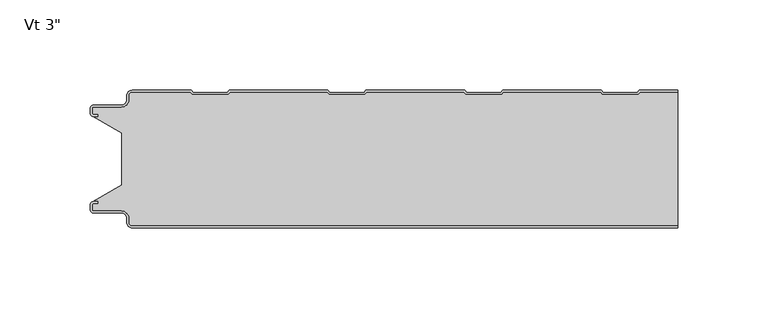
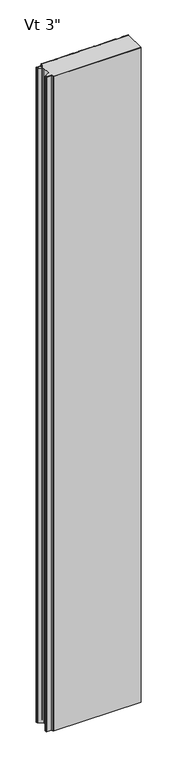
"""IFC4 building model written with IfcOpenShell, lengths in millimetres: plate geometry."""

from ifc_helpers import new_model, si_unit, frame, origin, place, context, project, spatial, polyline, circle_curve, source, transform, mapped, element, save
from ifc_brep_helpers import plane_surface, cylinder_surface, revolved_surface, advanced_brep


def plate_3c036621(model_context):
    return source(origin(), model_context, "Body", "AdvancedBrep", [
        advanced_brep(
        [(133.0522163, -1.0, 2400.0), (153.7374998, -1.0, 2400.0), (153.7374998, 0.0, 2400.0), (132.6097769, 0.0, 2400.0), (131.5372521, -1.1911595, 2400.0), (112.6391361, -1.1911595, 2400.0), (111.5666112, 0.0, 2400.0), (56.9871567, 0.0, 2400.0), (55.9146318, -1.1911595, 2400.0), (37.0165158, -1.1911595, 2400.0), (35.943991, 0.0, 2400.0), (-18.6354636, 0.0, 2400.0), (-19.7079884, -1.1911595, 2400.0), (-38.6061045, -1.1911595, 2400.0), (-39.6786293, 0.0, 2400.0), (-94.2580838, 0.0, 2400.0), (-95.3306087, -1.1911595, 2400.0), (-114.2287247, -1.1911595, 2400.0), (-115.3012496, 0.0, 2400.0), (-147.9102806, 0.0, 2400.0), (-150.8875472, -2.9772904, 2400.0), (-150.8875472, -5.2691742, 2400.0), (-153.8648158, -8.2464427, 2400.0), (-169.4612418, -8.2464427, 2400.0), (-171.0491183, -9.8343193, 2400.0), (-171.0491183, -12.905868, 2400.0), (-169.4612418, -14.4937445, 2400.0), (-167.1062063, -14.4937445, 2400.0), (-167.1062063, -13.4937445, 2400.0), (-169.4612418, -13.4937445, 2400.0), (-170.0491183, -12.905868, 2400.0), (-170.0491183, -9.8343193, 2400.0), (-169.4612418, -9.2464427, 2400.0), (-153.8648158, -9.2464427, 2400.0), (-149.8875472, -5.2691742, 2400.0), (-149.8875472, -2.9772904, 2400.0), (-147.9102799, -1.0000218, 2400.0), (-115.7436889, -1.0, 2400.0), (-114.671164, -2.1911595, 2400.0), (-94.8881694, -2.1911595, 2400.0), (-93.8156445, -1.0, 2400.0), (-40.1210686, -1.0, 2400.0), (-39.0485438, -2.1911595, 2400.0), (-19.2655491, -2.1911595, 2400.0), (-18.1930243, -1.0, 2400.0), (35.5015516, -1.0, 2400.0), (36.5740765, -2.1911595, 2400.0), (56.3570712, -2.1911595, 2400.0), (57.429596, -1.0, 2400.0), (111.1241719, -1.0, 2400.0), (112.1966967, -2.1911595, 2400.0), (131.9796914, -2.1911595, 2400.0), (132.6097769, 0.0, 0.0), (153.7374998, 0.0, 0.0), (153.7374998, -1.0, 0.0), (133.0522163, -1.0, 0.0), (131.9796914, -2.1911595, 0.0), (112.1966967, -2.1911595, 0.0), (111.1241719, -1.0, 0.0), (57.429596, -1.0, 0.0), (56.3570712, -2.1911595, 0.0), (36.5740765, -2.1911595, 0.0), (35.5015516, -1.0, 0.0), (-18.1930243, -1.0, 0.0), (-19.2655491, -2.1911595, 0.0), (-39.0485438, -2.1911595, 0.0), (-40.1210686, -1.0, 0.0), (-93.8156445, -1.0, 0.0), (-94.8881694, -2.1911595, 0.0), (-114.671164, -2.1911595, 0.0), (-115.7436889, -1.0, 0.0), (-147.9102799, -1.0, 0.0), (-149.8875472, -2.9772904, 0.0), (-149.8875472, -5.2691742, 0.0), (-153.8648158, -9.2464427, 0.0), (-169.4612418, -9.2464427, 0.0), (-170.0491183, -9.8343193, 0.0), (-170.0491183, -12.905868, 0.0), (-169.4612418, -13.4937445, 0.0), (-167.1062063, -13.4937445, 0.0), (-167.1062063, -14.4937445, 0.0), (-169.4612418, -14.4937445, 0.0), (-171.0491183, -12.905868, 0.0), (-171.0491183, -9.8343193, 0.0), (-169.4612418, -8.2464427, 0.0), (-153.8648158, -8.2464427, 0.0), (-150.8875472, -5.2691742, 0.0), (-150.8875472, -2.9772904, 0.0), (-147.9102806, -2.18e-05, 0.0), (-115.3012496, 0.0, 0.0), (-114.2287247, -1.1911595, 0.0), (-95.3306087, -1.1911595, 0.0), (-94.2580838, 0.0, 0.0), (-39.6786293, 0.0, 0.0), (-38.6061045, -1.1911595, 0.0), (-19.7079884, -1.1911595, 0.0), (-18.6354636, 0.0, 0.0), (35.943991, 0.0, 0.0), (37.0165158, -1.1911595, 0.0), (55.9146318, -1.1911595, 0.0), (56.9871567, 0.0, 0.0), (111.5666112, 0.0, 0.0), (112.6391361, -1.1911595, 0.0), (131.5372521, -1.1911595, 0.0)],
        [
            (0, 1),
            (1, 2),
            (2, 3),
            (3, 4),
            (4, 5),
            (5, 6),
            (6, 7),
            (7, 8),
            (8, 9),
            (9, 10),
            (10, 11),
            (11, 12),
            (12, 13),
            (13, 14),
            (14, 15),
            (15, 16),
            (16, 17),
            (17, 18),
            (18, 19),
            (19, 20, circle_curve(frame((-147.9102787, -2.9772904, 2400.0), z_axis=(0.0, 0.0, 1.0), x_axis=(0.0, 1.0, 0.0)), 2.9772685)),
            (20, 21),
            (21, 22, circle_curve(frame((-153.8648158, -5.2691742, 2400.0), z_axis=(0.0, 0.0, -1.0), x_axis=(0.0, 1.0, 0.0)), 2.9772685)),
            (22, 23),
            (23, 24, circle_curve(frame((-169.4612418, -9.8343193, 2400.0), z_axis=(0.0, 0.0, 1.0), x_axis=(0.0, 1.0, 0.0)), 1.5878765)),
            (24, 25),
            (25, 26, circle_curve(frame((-169.4612418, -12.905868, 2400.0), z_axis=(0.0, 0.0, 1.0), x_axis=(0.0, 1.0, 0.0)), 1.5878765)),
            (26, 27),
            (27, 28),
            (28, 29),
            (29, 30, circle_curve(frame((-169.4612418, -12.905868, 2400.0), z_axis=(0.0, 0.0, -1.0), x_axis=(0.0, 1.0, 0.0)), 0.5878765)),
            (30, 31),
            (31, 32, circle_curve(frame((-169.4612418, -9.8343193, 2400.0), z_axis=(0.0, 0.0, -1.0), x_axis=(0.0, 1.0, 0.0)), 0.5878765)),
            (32, 33),
            (33, 34, circle_curve(frame((-153.8648158, -5.2691742, 2400.0), z_axis=(0.0, 0.0, 1.0), x_axis=(0.0, 1.0, 0.0)), 3.9772685)),
            (34, 35),
            (35, 36, circle_curve(frame((-147.9102787, -2.9772904, 2400.0), z_axis=(0.0, 0.0, -1.0), x_axis=(0.0, 1.0, 0.0)), 1.9772685)),
            (36, 37),
            (37, 38),
            (38, 39),
            (39, 40),
            (40, 41),
            (41, 42),
            (42, 43),
            (43, 44),
            (44, 45),
            (45, 46),
            (46, 47),
            (47, 48),
            (48, 49),
            (49, 50),
            (50, 51),
            (51, 0),
            (52, 53),
            (53, 54),
            (54, 55),
            (55, 56),
            (56, 57),
            (57, 58),
            (58, 59),
            (59, 60),
            (60, 61),
            (61, 62),
            (62, 63),
            (63, 64),
            (64, 65),
            (65, 66),
            (66, 67),
            (67, 68),
            (68, 69),
            (69, 70),
            (70, 71),
            (71, 72, circle_curve(frame((-147.9102787, -2.9772904, 0.0), z_axis=(0.0, 0.0, 1.0), x_axis=(0.0, 1.0, 0.0)), 1.9772685)),
            (72, 73),
            (73, 74, circle_curve(frame((-153.8648158, -5.2691742, 0.0), z_axis=(0.0, 0.0, -1.0), x_axis=(0.0, 1.0, 0.0)), 3.9772685)),
            (74, 75),
            (75, 76, circle_curve(frame((-169.4612418, -9.8343193, 0.0), z_axis=(0.0, 0.0, 1.0), x_axis=(0.0, 1.0, 0.0)), 0.5878765)),
            (76, 77),
            (77, 78, circle_curve(frame((-169.4612418, -12.905868, 0.0), z_axis=(0.0, 0.0, 1.0), x_axis=(0.0, 1.0, 0.0)), 0.5878765)),
            (78, 79),
            (79, 80),
            (80, 81),
            (81, 82, circle_curve(frame((-169.4612418, -12.905868, 0.0), z_axis=(0.0, 0.0, -1.0), x_axis=(0.0, 1.0, 0.0)), 1.5878765)),
            (82, 83),
            (83, 84, circle_curve(frame((-169.4612418, -9.8343193, 0.0), z_axis=(0.0, 0.0, -1.0), x_axis=(0.0, 1.0, 0.0)), 1.5878765)),
            (84, 85),
            (85, 86, circle_curve(frame((-153.8648158, -5.2691742, 0.0), z_axis=(0.0, 0.0, 1.0), x_axis=(0.0, 1.0, 0.0)), 2.9772685)),
            (86, 87),
            (87, 88, circle_curve(frame((-147.9102787, -2.9772904, 0.0), z_axis=(0.0, 0.0, -1.0), x_axis=(0.0, 1.0, 0.0)), 2.9772685)),
            (88, 89),
            (89, 90),
            (90, 91),
            (91, 92),
            (92, 93),
            (93, 94),
            (94, 95),
            (95, 96),
            (96, 97),
            (97, 98),
            (98, 99),
            (99, 100),
            (100, 101),
            (101, 102),
            (102, 103),
            (103, 52),
            (54, 1),
            (0, 55),
            (51, 56),
            (50, 57),
            (49, 58),
            (48, 59),
            (47, 60),
            (46, 61),
            (45, 62),
            (44, 63),
            (43, 64),
            (42, 65),
            (41, 66),
            (40, 67),
            (39, 68),
            (38, 69),
            (37, 70),
            (36, 71),
            (35, 72),
            (34, 73),
            (33, 74),
            (32, 75),
            (31, 76),
            (30, 77),
            (29, 78),
            (28, 79),
            (27, 80),
            (26, 81),
            (25, 82),
            (24, 83),
            (23, 84),
            (22, 85),
            (21, 86),
            (20, 87),
            (19, 88),
            (18, 89),
            (17, 90),
            (16, 91),
            (15, 92),
            (14, 93),
            (13, 94),
            (12, 95),
            (11, 96),
            (10, 97),
            (9, 98),
            (8, 99),
            (7, 100),
            (6, 101),
            (5, 102),
            (4, 103),
            (3, 52),
            (2, 53),
        ],
        [
            plane_surface(frame((422.5250002, 0.0, 2400.0), z_axis=(0.0, 0.0, 1.0), x_axis=(0.0, 1.0, 0.0))),
            plane_surface(frame((422.5250002, 0.0, 0.0), z_axis=(0.0, 0.0, -1.0), x_axis=(0.0, 1.0, 0.0))),
            plane_surface(frame((186.7467922, -1.0, 2400.0), z_axis=(0.0, -1.0, 0.0), x_axis=(0.0, 0.0, -1.0))),
            plane_surface(frame((133.0522163, -1.0, 2400.0), z_axis=(0.7431448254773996, -0.6691306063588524, 0.0), x_axis=(0.0, 0.0, -1.0))),
            plane_surface(frame((131.9796914, -2.1911595, 2400.0), z_axis=(0.0, -1.0, 0.0), x_axis=(0.0, 0.0, -1.0))),
            plane_surface(frame((112.1966967, -2.1911595, 2400.0), z_axis=(-0.7431448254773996, -0.6691306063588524, 0.0), x_axis=(0.0, 0.0, -1.0))),
            plane_surface(frame((111.1241719, -1.0, 2400.0), z_axis=(0.0, -1.0, 0.0), x_axis=(0.0, 0.0, -1.0))),
            plane_surface(frame((57.429596, -1.0, 2400.0), z_axis=(0.7431448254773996, -0.6691306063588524, 0.0), x_axis=(0.0, 0.0, -1.0))),
            plane_surface(frame((56.3570712, -2.1911595, 2400.0), z_axis=(0.0, -1.0, 0.0), x_axis=(0.0, 0.0, -1.0))),
            plane_surface(frame((36.5740765, -2.1911595, 2400.0), z_axis=(-0.7431448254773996, -0.6691306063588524, 0.0), x_axis=(0.0, 0.0, -1.0))),
            plane_surface(frame((35.5015516, -1.0, 2400.0), z_axis=(0.0, -1.0, 0.0), x_axis=(0.0, 0.0, -1.0))),
            plane_surface(frame((-18.1930243, -1.0, 2400.0), z_axis=(0.7431448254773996, -0.6691306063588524, 0.0), x_axis=(0.0, 0.0, -1.0))),
            plane_surface(frame((-19.2655491, -2.1911595, 2400.0), z_axis=(0.0, -1.0, 0.0), x_axis=(0.0, 0.0, -1.0))),
            plane_surface(frame((-39.0485438, -2.1911595, 2400.0), z_axis=(-0.7431448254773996, -0.6691306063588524, 0.0), x_axis=(0.0, 0.0, -1.0))),
            plane_surface(frame((-40.1210686, -1.0, 2400.0), z_axis=(0.0, -1.0, 0.0), x_axis=(0.0, 0.0, -1.0))),
            plane_surface(frame((-93.8156445, -1.0, 2400.0), z_axis=(0.7431448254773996, -0.6691306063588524, 0.0), x_axis=(0.0, 0.0, -1.0))),
            plane_surface(frame((-94.8881694, -2.1911595, 2400.0), z_axis=(0.0, -1.0, 0.0), x_axis=(0.0, 0.0, -1.0))),
            plane_surface(frame((-114.671164, -2.1911595, 2400.0), z_axis=(-0.7431448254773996, -0.6691306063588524, 0.0), x_axis=(0.0, 0.0, -1.0))),
            plane_surface(frame((-115.7436889, -1.0, 2400.0), z_axis=(0.0, -1.0, 0.0), x_axis=(0.0, 0.0, -1.0))),
            revolved_surface(polyline([(-147.9102787, -1.0000218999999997, 0.0), (-147.9102787, -1.0000218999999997, 2400.0)]), (-147.9102787, -2.9772904, 2400.0), (0.0, 0.0, -1.0)),
            plane_surface(frame((-149.8875472, -2.9772904, 2400.0), z_axis=(1.0, 0.0, 0.0), x_axis=(0.0, 0.0, -1.0))),
            cylinder_surface(frame((-153.8648158, -5.2691742, 2400.0), z_axis=(0.0, 0.0, 1.0), x_axis=(0.0, 1.0, 0.0)), 3.9772685),
            plane_surface(frame((-153.8648158, -9.2464427, 2400.0), z_axis=(0.0, -1.0, 0.0), x_axis=(0.0, 0.0, -1.0))),
            revolved_surface(polyline([(-169.4612418, -9.2464428, 0.0), (-169.4612418, -9.2464428, 2400.0)]), (-169.4612418, -9.8343193, 2400.0), (0.0, 0.0, -1.0)),
            plane_surface(frame((-170.0491183, -9.8343193, 2400.0), z_axis=(1.0, 0.0, 0.0), x_axis=(0.0, 0.0, -1.0))),
            revolved_surface(polyline([(-169.4612418, -12.3179915, 0.0), (-169.4612418, -12.3179915, 2400.0)]), (-169.4612418, -12.905868, 2400.0), (0.0, 0.0, -1.0)),
            plane_surface(frame((-169.4612418, -13.4937445, 2400.0), z_axis=(0.0, 1.0, 0.0), x_axis=(0.0, 0.0, -1.0))),
            plane_surface(frame((-167.1062063, -13.4937445, 2400.0), z_axis=(1.0, 0.0, 0.0), x_axis=(0.0, 0.0, -1.0))),
            plane_surface(frame((-167.1062063, -14.4937445, 2400.0), z_axis=(0.0, -1.0, 0.0), x_axis=(0.0, 0.0, -1.0))),
            cylinder_surface(frame((-169.4612418, -12.905868, 2400.0), z_axis=(0.0, 0.0, 1.0), x_axis=(0.0, 1.0, 0.0)), 1.5878765),
            plane_surface(frame((-171.0491183, -12.905868, 2400.0), z_axis=(-1.0, 0.0, 0.0), x_axis=(0.0, 0.0, -1.0))),
            cylinder_surface(frame((-169.4612418, -9.8343193, 2400.0), z_axis=(0.0, 0.0, 1.0), x_axis=(0.0, 1.0, 0.0)), 1.5878765),
            plane_surface(frame((-169.4612418, -8.2464427, 2400.0), z_axis=(0.0, 1.0, 0.0), x_axis=(0.0, 0.0, -1.0))),
            revolved_surface(polyline([(-153.8648158, -2.2919057, 0.0), (-153.8648158, -2.2919057, 2400.0)]), (-153.8648158, -5.2691742, 2400.0), (0.0, 0.0, -1.0)),
            plane_surface(frame((-150.8875472, -5.2691742, 2400.0), z_axis=(-1.0, 0.0, 0.0), x_axis=(0.0, 0.0, -1.0))),
            cylinder_surface(frame((-147.9102787, -2.9772904, 2400.0), z_axis=(0.0, 0.0, 1.0), x_axis=(0.0, 1.0, 0.0)), 2.9772685),
            plane_surface(frame((-147.9102806, 0.0, 2400.0), z_axis=(0.0, 1.0, 0.0), x_axis=(0.0, 0.0, -1.0))),
            plane_surface(frame((-115.3012496, 0.0, 2400.0), z_axis=(0.7431448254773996, 0.6691306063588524, 0.0), x_axis=(0.0, 0.0, -1.0))),
            plane_surface(frame((-114.2287247, -1.1911595, 2400.0), z_axis=(0.0, 1.0, 0.0), x_axis=(0.0, 0.0, -1.0))),
            plane_surface(frame((-95.3306087, -1.1911595, 2400.0), z_axis=(-0.7431448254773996, 0.6691306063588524, 0.0), x_axis=(0.0, 0.0, -1.0))),
            plane_surface(frame((-94.2580838, 0.0, 2400.0), z_axis=(0.0, 1.0, 0.0), x_axis=(0.0, 0.0, -1.0))),
            plane_surface(frame((-39.6786293, 0.0, 2400.0), z_axis=(0.7431448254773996, 0.6691306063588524, 0.0), x_axis=(0.0, 0.0, -1.0))),
            plane_surface(frame((-38.6061045, -1.1911595, 2400.0), z_axis=(0.0, 1.0, 0.0), x_axis=(0.0, 0.0, -1.0))),
            plane_surface(frame((-19.7079884, -1.1911595, 2400.0), z_axis=(-0.7431448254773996, 0.6691306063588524, 0.0), x_axis=(0.0, 0.0, -1.0))),
            plane_surface(frame((-18.6354636, 0.0, 2400.0), z_axis=(0.0, 1.0, 0.0), x_axis=(0.0, 0.0, -1.0))),
            plane_surface(frame((35.943991, 0.0, 2400.0), z_axis=(0.7431448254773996, 0.6691306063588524, 0.0), x_axis=(0.0, 0.0, -1.0))),
            plane_surface(frame((37.0165158, -1.1911595, 2400.0), z_axis=(0.0, 1.0, 0.0), x_axis=(0.0, 0.0, -1.0))),
            plane_surface(frame((55.9146318, -1.1911595, 2400.0), z_axis=(-0.7431448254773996, 0.6691306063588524, 0.0), x_axis=(0.0, 0.0, -1.0))),
            plane_surface(frame((56.9871567, 0.0, 2400.0), z_axis=(0.0, 1.0, 0.0), x_axis=(0.0, 0.0, -1.0))),
            plane_surface(frame((111.5666112, 0.0, 2400.0), z_axis=(0.7431448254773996, 0.6691306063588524, 0.0), x_axis=(0.0, 0.0, -1.0))),
            plane_surface(frame((112.6391361, -1.1911595, 2400.0), z_axis=(0.0, 1.0, 0.0), x_axis=(0.0, 0.0, -1.0))),
            plane_surface(frame((131.5372521, -1.1911595, 2400.0), z_axis=(-0.7431448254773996, 0.6691306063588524, 0.0), x_axis=(0.0, 0.0, -1.0))),
            plane_surface(frame((132.6097769, 0.0, 2400.0), z_axis=(0.0, 1.0, 0.0), x_axis=(0.0, 0.0, -1.0))),
            plane_surface(frame((153.7374998, -86.2, 2400.0), z_axis=(1.0, 0.0, 0.0), x_axis=(0.0, 0.0, -1.0))),
        ],
        [
            (0, [[1, 2, 3, 4, 5, 6, 7, 8, 9, 10, 11, 12, 13, 14, 15, 16, 17, 18, 19, 20, 21, 22, 23, 24, 25, 26, 27, 28, 29, 30, 31, 32, 33, 34, 35, 36, 37, 38, 39, 40, 41, 42, 43, 44, 45, 46, 47, 48, 49, 50, 51, 52]]),
            (1, [[53, 54, 55, 56, 57, 58, 59, 60, 61, 62, 63, 64, 65, 66, 67, 68, 69, 70, 71, 72, 73, 74, 75, 76, 77, 78, 79, 80, 81, 82, 83, 84, 85, 86, 87, 88, 89, 90, 91, 92, 93, 94, 95, 96, 97, 98, 99, 100, 101, 102, 103, 104]]),
            (2, [[-55, 105, -1, 106]]),
            (3, [[107, -56, -106, -52]]),
            (4, [[108, -57, -107, -51]]),
            (5, [[109, -58, -108, -50]]),
            (6, [[110, -59, -109, -49]]),
            (7, [[111, -60, -110, -48]]),
            (8, [[112, -61, -111, -47]]),
            (9, [[113, -62, -112, -46]]),
            (10, [[114, -63, -113, -45]]),
            (11, [[115, -64, -114, -44]]),
            (12, [[116, -65, -115, -43]]),
            (13, [[117, -66, -116, -42]]),
            (14, [[118, -67, -117, -41]]),
            (15, [[119, -68, -118, -40]]),
            (16, [[120, -69, -119, -39]]),
            (17, [[121, -70, -120, -38]]),
            (18, [[122, -71, -121, -37]]),
            (19, [[123, -72, -122, -36]]),
            (20, [[124, -73, -123, -35]]),
            (21, [[125, -74, -124, -34]]),
            (22, [[126, -75, -125, -33]]),
            (23, [[127, -76, -126, -32]]),
            (24, [[128, -77, -127, -31]]),
            (25, [[129, -78, -128, -30]]),
            (26, [[130, -79, -129, -29]]),
            (27, [[131, -80, -130, -28]]),
            (28, [[132, -81, -131, -27]]),
            (29, [[133, -82, -132, -26]]),
            (30, [[134, -83, -133, -25]]),
            (31, [[135, -84, -134, -24]]),
            (32, [[136, -85, -135, -23]]),
            (33, [[137, -86, -136, -22]]),
            (34, [[138, -87, -137, -21]]),
            (35, [[139, -88, -138, -20]]),
            (36, [[140, -89, -139, -19]]),
            (37, [[141, -90, -140, -18]]),
            (38, [[142, -91, -141, -17]]),
            (39, [[143, -92, -142, -16]]),
            (40, [[144, -93, -143, -15]]),
            (41, [[145, -94, -144, -14]]),
            (42, [[146, -95, -145, -13]]),
            (43, [[147, -96, -146, -12]]),
            (44, [[148, -97, -147, -11]]),
            (45, [[149, -98, -148, -10]]),
            (46, [[150, -99, -149, -9]]),
            (47, [[151, -100, -150, -8]]),
            (48, [[152, -101, -151, -7]]),
            (49, [[153, -102, -152, -6]]),
            (50, [[154, -103, -153, -5]]),
            (51, [[155, -104, -154, -4]]),
            (52, [[-3, 156, -53, -155]]),
            (53, [[-105, -54, -156, -2]]),
        ],
    ),
        advanced_brep(
        [(-149.8873936, -73.2223811, 2400.0), (-149.8873936, -70.9308685, 2400.0), (-153.864739, -66.9535232, 2400.0), (-169.4612512, -66.9535232, 2400.0), (-170.0491084, -66.365666, 2400.0), (-170.0491084, -63.2941346, 2400.0), (-169.4612373, -62.7062635, 2400.0), (-167.1062063, -62.7062635, 2400.0), (-167.1062063, -61.7062599, 2400.0), (-169.4612418, -61.7062599, 2400.0), (-171.0491183, -63.2941364, 2400.0), (-171.0491183, -66.3656851, 2400.0), (-169.4612418, -67.9535616, 2400.0), (-153.8648158, -67.9535616, 2400.0), (-150.8875472, -70.9308302, 2400.0), (-150.8875472, -73.222714, 2400.0), (-147.9102787, -76.1999825, 2400.0), (153.7374998, -76.2, 2400.0), (153.7374998, -75.1992912, 2400.0), (-147.9104835, -75.1992912, 2400.0), (-149.8873936, -73.2223811, 0.0), (-147.9104835, -75.1992912, 0.0), (153.7374998, -75.1992912, 0.0), (153.7374998, -76.2, 0.0), (-147.9102787, -76.2, 0.0), (-150.8875472, -73.222714, 0.0), (-150.8875472, -70.9308302, 0.0), (-153.8648158, -67.9535616, 0.0), (-169.4612418, -67.9535616, 0.0), (-171.0491183, -66.3656851, 0.0), (-171.0491183, -63.2941364, 0.0), (-169.4612418, -61.7062599, 0.0), (-167.1062063, -61.7062599, 0.0), (-167.1062063, -62.7062635, 0.0), (-169.4612373, -62.7062635, 0.0), (-170.0491084, -63.2941346, 0.0), (-170.0491084, -66.365666, 0.0), (-169.4612512, -66.9535232, 0.0), (-153.864739, -66.9535232, 0.0), (-149.8873936, -70.9308685, 0.0)],
        [
            (0, 1),
            (1, 2, circle_curve(frame((-153.864739, -70.9308685, 2400.0), z_axis=(0.0, 0.0, 1.0), x_axis=(-1.0, 0.0, 0.0)), 3.9773454)),
            (2, 3),
            (3, 4, circle_curve(frame((-169.4612512, -66.365666, 2400.0), z_axis=(0.0, 0.0, -1.0), x_axis=(-1.0, 0.0, 0.0)), 0.5878572)),
            (4, 5),
            (5, 6, circle_curve(frame((-169.4612373, -63.2941346, 2400.0), z_axis=(0.0, 0.0, -1.0), x_axis=(-1.0, 0.0, 0.0)), 0.5878711)),
            (6, 7),
            (7, 8),
            (8, 9),
            (9, 10, circle_curve(frame((-169.4612418, -63.2941364, 2400.0), z_axis=(0.0, 0.0, 1.0), x_axis=(-1.0, 0.0, 0.0)), 1.5878765)),
            (10, 11),
            (11, 12, circle_curve(frame((-169.4612418, -66.3656851, 2400.0), z_axis=(0.0, 0.0, 1.0), x_axis=(-1.0, 0.0, 0.0)), 1.5878765)),
            (12, 13),
            (13, 14, circle_curve(frame((-153.8648158, -70.9308302, 2400.0), z_axis=(0.0, 0.0, -1.0), x_axis=(-1.0, 0.0, 0.0)), 2.9772685)),
            (14, 15),
            (15, 16, circle_curve(frame((-147.9102787, -73.222714, 2400.0), z_axis=(0.0, 0.0, 1.0), x_axis=(-1.0, 0.0, 0.0)), 2.9772685)),
            (16, 17),
            (17, 18),
            (18, 19),
            (19, 0, circle_curve(frame((-147.9104835, -73.2223811, 2400.0), z_axis=(0.0, 0.0, -1.0), x_axis=(-1.0, 0.0, 0.0)), 1.9769101)),
            (20, 21, circle_curve(frame((-147.9104835, -73.2223811, 0.0), z_axis=(0.0, 0.0, 1.0), x_axis=(-1.0, 0.0, 0.0)), 1.9769101)),
            (21, 22),
            (22, 23),
            (23, 24),
            (24, 25, circle_curve(frame((-147.9102787, -73.222714, 0.0), z_axis=(0.0, 0.0, -1.0), x_axis=(-1.0, 0.0, 0.0)), 2.9772685)),
            (25, 26),
            (26, 27, circle_curve(frame((-153.8648158, -70.9308302, 0.0), z_axis=(0.0, 0.0, 1.0), x_axis=(-1.0, 0.0, 0.0)), 2.9772685)),
            (27, 28),
            (28, 29, circle_curve(frame((-169.4612418, -66.3656851, 0.0), z_axis=(0.0, 0.0, -1.0), x_axis=(-1.0, 0.0, 0.0)), 1.5878765)),
            (29, 30),
            (30, 31, circle_curve(frame((-169.4612418, -63.2941364, 0.0), z_axis=(0.0, 0.0, -1.0), x_axis=(-1.0, 0.0, 0.0)), 1.5878765)),
            (31, 32),
            (32, 33),
            (33, 34),
            (34, 35, circle_curve(frame((-169.4612373, -63.2941346, 0.0), z_axis=(0.0, 0.0, 1.0), x_axis=(-1.0, 0.0, 0.0)), 0.5878711)),
            (35, 36),
            (36, 37, circle_curve(frame((-169.4612512, -66.365666, 0.0), z_axis=(0.0, 0.0, 1.0), x_axis=(-1.0, 0.0, 0.0)), 0.5878572)),
            (37, 38),
            (38, 39, circle_curve(frame((-153.864739, -70.9308685, 0.0), z_axis=(0.0, 0.0, -1.0), x_axis=(-1.0, 0.0, 0.0)), 3.9773454)),
            (39, 20),
            (17, 23),
            (22, 18),
            (16, 24),
            (21, 19),
            (20, 0),
            (39, 1),
            (38, 2),
            (37, 3),
            (4, 36),
            (35, 5),
            (34, 6),
            (33, 7),
            (32, 8),
            (31, 9),
            (30, 10),
            (29, 11),
            (28, 12),
            (27, 13),
            (26, 14),
            (25, 15),
        ],
        [
            plane_surface(frame((422.5250002, -76.2, 2400.0), z_axis=(0.0, 0.0, 1.0), x_axis=(0.0, -1.0, 0.0))),
            plane_surface(frame((422.5250002, -76.2, 0.0), z_axis=(0.0, 0.0, -1.0), x_axis=(0.0, -1.0, 0.0))),
            plane_surface(frame((153.7374998, -86.2, 2400.0), z_axis=(1.0, 0.0, 0.0), x_axis=(0.0, 0.0, -1.0))),
            plane_surface(frame((997.0725653, -76.2, 2400.0), z_axis=(0.0, -1.0, 0.0), x_axis=(0.0, 0.0, -1.0))),
            plane_surface(frame((-147.9104835, -75.1992912, 2400.0), z_axis=(0.0, 1.0, 0.0), x_axis=(0.0, 0.0, -1.0))),
            revolved_surface(polyline([(-149.8873936, -73.2223811, 0.0), (-149.8873936, -73.2223811, 2400.0)]), (-147.9104835, -73.2223811, 2400.0), (0.0, 0.0, -1.0)),
            plane_surface(frame((-149.8873936, -70.9308685, 2400.0), z_axis=(1.0, 0.0, 0.0), x_axis=(0.0, 0.0, -1.0))),
            cylinder_surface(frame((-153.864739, -70.9308685, 2400.0), z_axis=(0.0, 0.0, 1.0), x_axis=(-1.0, 0.0, 0.0)), 3.9773454),
            plane_surface(frame((-169.4612512, -66.9535232, 2400.0), z_axis=(0.0, 1.0, 0.0), x_axis=(0.0, 0.0, -1.0))),
            plane_surface(frame((-170.0491084, -63.2941346, 2400.0), z_axis=(1.0, 0.0, 0.0), x_axis=(0.0, 0.0, -1.0))),
            revolved_surface(polyline([(-170.0491084, -63.2941346, 0.0), (-170.0491084, -63.2941346, 2400.0)]), (-169.4612373, -63.2941346, 2400.0), (0.0, 0.0, -1.0)),
            plane_surface(frame((-167.1062063, -62.7062635, 2400.0), z_axis=(0.0, -1.0, 0.0), x_axis=(0.0, 0.0, -1.0))),
            plane_surface(frame((-167.1062063, -61.7062599, 2400.0), z_axis=(1.0, 0.0, 0.0), x_axis=(0.0, 0.0, -1.0))),
            plane_surface(frame((-169.4612418, -61.7062599, 2400.0), z_axis=(0.0, 1.0, 0.0), x_axis=(0.0, 0.0, -1.0))),
            cylinder_surface(frame((-169.4612418, -63.2941364, 2400.0), z_axis=(0.0, 0.0, 1.0), x_axis=(-1.0, 0.0, 0.0)), 1.5878765),
            plane_surface(frame((-171.0491183, -66.3656851, 2400.0), z_axis=(-1.0, 0.0, 0.0), x_axis=(0.0, 0.0, -1.0))),
            cylinder_surface(frame((-169.4612418, -66.3656851, 2400.0), z_axis=(0.0, 0.0, 1.0), x_axis=(-1.0, 0.0, 0.0)), 1.5878765),
            plane_surface(frame((-153.8648158, -67.9535616, 2400.0), z_axis=(0.0, -1.0, 0.0), x_axis=(0.0, 0.0, -1.0))),
            revolved_surface(polyline([(-156.8420843, -70.9308302, 0.0), (-156.8420843, -70.9308302, 2400.0)]), (-153.8648158, -70.9308302, 2400.0), (0.0, 0.0, -1.0)),
            plane_surface(frame((-150.8875472, -73.222714, 2400.0), z_axis=(-1.0, 0.0, 0.0), x_axis=(0.0, 0.0, -1.0))),
            cylinder_surface(frame((-147.9102787, -73.222714, 2400.0), z_axis=(0.0, 0.0, 1.0), x_axis=(-1.0, 0.0, 0.0)), 2.9772685),
            revolved_surface(polyline([(-170.0491084, -66.365666, 0.0), (-170.0491084, -66.365666, 2400.0)]), (-169.4612512, -66.365666, 2400.0), (0.0, 0.0, -1.0)),
        ],
        [
            (0, [[1, 2, 3, 4, 5, 6, 7, 8, 9, 10, 11, 12, 13, 14, 15, 16, 17, 18, 19, 20]]),
            (1, [[21, 22, 23, 24, 25, 26, 27, 28, 29, 30, 31, 32, 33, 34, 35, 36, 37, 38, 39, 40]]),
            (2, [[41, -23, 42, -18]]),
            (3, [[-24, -41, -17, 43]]),
            (4, [[-19, -42, -22, 44]]),
            (5, [[-44, -21, 45, -20]]),
            (6, [[-45, -40, 46, -1]]),
            (7, [[-46, -39, 47, -2]]),
            (8, [[-47, -38, 48, -3]]),
            (9, [[49, -36, 50, -5]]),
            (10, [[-50, -35, 51, -6]]),
            (11, [[-51, -34, 52, -7]]),
            (12, [[-52, -33, 53, -8]]),
            (13, [[-53, -32, 54, -9]]),
            (14, [[-54, -31, 55, -10]]),
            (15, [[-55, -30, 56, -11]]),
            (16, [[-56, -29, 57, -12]]),
            (17, [[-57, -28, 58, -13]]),
            (18, [[-58, -27, 59, -14]]),
            (19, [[-59, -26, 60, -15]]),
            (20, [[-60, -25, -43, -16]]),
            (21, [[-48, -37, -49, -4]]),
        ],
    ),
        advanced_brep(
        [(-149.88755, -73.2227194, 2400.0), (-147.910276, -75.1999935, 2400.0), (153.7374998, -75.2, 2400.0), (153.7374998, -1.0, 2400.0), (133.0522163, -1.0, 2400.0), (131.9796914, -2.1911595, 2400.0), (112.1966967, -2.1911595, 2400.0), (111.1241719, -1.0, 2400.0), (57.429596, -1.0, 2400.0), (56.3570712, -2.1911595, 2400.0), (36.5740765, -2.1911595, 2400.0), (35.5015516, -1.0, 2400.0), (-18.1930243, -1.0, 2400.0), (-19.2655491, -2.1911595, 2400.0), (-39.0485438, -2.1911595, 2400.0), (-40.1210686, -1.0, 2400.0), (-93.8156445, -1.0, 2400.0), (-94.8881694, -2.1911595, 2400.0), (-114.671164, -2.1911595, 2400.0), (-115.7436889, -1.0000109, 2400.0), (-147.910276, -1.0000109, 2400.0), (-149.88755, -2.9772849, 2400.0), (-149.88755, -5.2691749, 2400.0), (-153.8648171, -9.246442, 2400.0), (-169.4612416, -9.246442, 2400.0), (-170.0491185, -9.8343189, 2400.0), (-170.0491185, -12.9058679, 2400.0), (-169.4612418, -13.4937446, 2400.0), (-167.1062063, -13.4937446, 2400.0), (-167.1062063, -14.4937446, 2400.0), (-169.395785, -14.4937446, 2400.0), (-153.7374998, -23.7509179, 2400.0), (-153.7374998, -52.4490865, 2400.0), (-169.395785, -61.7062598, 2400.0), (-167.1062063, -61.7062598, 2400.0), (-167.1062063, -62.7062598, 2400.0), (-169.4612418, -62.7062598, 2400.0), (-170.0491185, -63.2941365, 2400.0), (-170.0491185, -66.3656854, 2400.0), (-169.4612416, -66.9535623, 2400.0), (-153.8648171, -66.9535623, 2400.0), (-149.88755, -70.9308295, 2400.0), (-149.88755, -73.2227194, 0.0), (-149.88755, -70.9308295, 0.0), (-153.8648171, -66.9535623, 0.0), (-169.4612416, -66.9535623, 0.0), (-170.0491185, -66.3656854, 0.0), (-170.0491185, -63.2941365, 0.0), (-169.4612418, -62.7062598, 0.0), (-167.1062063, -62.7062598, 0.0), (-167.1062063, -61.7062598, 0.0), (-169.395785, -61.7062598, 0.0), (-153.7374998, -52.4490865, 0.0), (-153.7374998, -23.7509179, 0.0), (-169.395785, -14.4937446, 0.0), (-167.1062063, -14.4937446, 0.0), (-167.1062063, -13.4937446, 0.0), (-169.4612418, -13.4937446, 0.0), (-170.0491185, -12.9058679, 0.0), (-170.0491185, -9.8343189, 0.0), (-169.4612416, -9.246442, 0.0), (-153.8648171, -9.246442, 0.0), (-149.88755, -5.2691749, 0.0), (-149.88755, -2.9772849, 0.0), (-147.910276, -1.0000109, 0.0), (-115.7436889, -1.0000109, 0.0), (-114.671164, -2.1911595, 0.0), (-94.8881694, -2.1911595, 0.0), (-93.8156445, -1.0, 0.0), (-40.1210686, -1.0, 0.0), (-39.0485438, -2.1911595, 0.0), (-19.2655491, -2.1911595, 0.0), (-18.1930243, -1.0, 0.0), (35.5015516, -1.0, 0.0), (36.5740765, -2.1911595, 0.0), (56.3570712, -2.1911595, 0.0), (57.429596, -1.0, 0.0), (111.1241719, -1.0, 0.0), (112.1966967, -2.1911595, 0.0), (131.9796914, -2.1911595, 0.0), (133.0522163, -1.0, 0.0), (153.7374998, -1.0, 0.0), (153.7374998, -75.2, 0.0), (-147.910276, -75.2, 0.0)],
        [
            (0, 1, circle_curve(frame((-147.910276, -73.2227194, 2400.0), z_axis=(0.0, 0.0, 1.0), x_axis=(-1.0, 0.0, 0.0)), 1.977274)),
            (1, 2),
            (2, 3),
            (3, 4),
            (4, 5),
            (5, 6),
            (6, 7),
            (7, 8),
            (8, 9),
            (9, 10),
            (10, 11),
            (11, 12),
            (12, 13),
            (13, 14),
            (14, 15),
            (15, 16),
            (16, 17),
            (17, 18),
            (18, 19),
            (19, 20),
            (20, 21, circle_curve(frame((-147.910276, -2.9772849, 2400.0), z_axis=(0.0, 0.0, 1.0), x_axis=(0.0, 1.0, 0.0)), 1.977274)),
            (21, 22),
            (22, 23, circle_curve(frame((-153.8648171, -5.2691749, 2400.0), z_axis=(0.0, 0.0, -1.0), x_axis=(0.0, 1.0, 0.0)), 3.9772671)),
            (23, 24),
            (24, 25, circle_curve(frame((-169.4612416, -9.8343189, 2400.0), z_axis=(0.0, 0.0, 1.0), x_axis=(0.0, 1.0, 0.0)), 0.5878769)),
            (25, 26),
            (26, 27, circle_curve(frame((-169.4612418, -12.9058679, 2400.0), z_axis=(0.0, 0.0, 1.0), x_axis=(0.0, 1.0, 0.0)), 0.5878766)),
            (27, 28),
            (28, 29),
            (29, 30),
            (30, 31),
            (31, 32),
            (32, 33),
            (33, 34),
            (34, 35),
            (35, 36),
            (36, 37, circle_curve(frame((-169.4612418, -63.2941365, 2400.0), z_axis=(0.0, 0.0, 1.0), x_axis=(-1.0, 0.0, 0.0)), 0.5878766)),
            (37, 38),
            (38, 39, circle_curve(frame((-169.4612416, -66.3656854, 2400.0), z_axis=(0.0, 0.0, 1.0), x_axis=(-1.0, 0.0, 0.0)), 0.5878769)),
            (39, 40),
            (40, 41, circle_curve(frame((-153.8648171, -70.9308295, 2400.0), z_axis=(0.0, 0.0, -1.0), x_axis=(-1.0, 0.0, 0.0)), 3.9772671)),
            (41, 0),
            (42, 43),
            (43, 44, circle_curve(frame((-153.8648171, -70.9308295, 0.0), z_axis=(0.0, 0.0, 1.0), x_axis=(-1.0, 0.0, 0.0)), 3.9772671)),
            (44, 45),
            (45, 46, circle_curve(frame((-169.4612416, -66.3656854, 0.0), z_axis=(0.0, 0.0, -1.0), x_axis=(-1.0, 0.0, 0.0)), 0.5878769)),
            (46, 47),
            (47, 48, circle_curve(frame((-169.4612418, -63.2941365, 0.0), z_axis=(0.0, 0.0, -1.0), x_axis=(-1.0, 0.0, 0.0)), 0.5878766)),
            (48, 49),
            (49, 50),
            (50, 51),
            (51, 52),
            (52, 53),
            (53, 54),
            (54, 55),
            (55, 56),
            (56, 57),
            (57, 58, circle_curve(frame((-169.4612418, -12.9058679, 0.0), z_axis=(0.0, 0.0, -1.0), x_axis=(0.0, 1.0, 0.0)), 0.5878766)),
            (58, 59),
            (59, 60, circle_curve(frame((-169.4612416, -9.8343189, 0.0), z_axis=(0.0, 0.0, -1.0), x_axis=(0.0, 1.0, 0.0)), 0.5878769)),
            (60, 61),
            (61, 62, circle_curve(frame((-153.8648171, -5.2691749, 0.0), z_axis=(0.0, 0.0, 1.0), x_axis=(0.0, 1.0, 0.0)), 3.9772671)),
            (62, 63),
            (63, 64, circle_curve(frame((-147.910276, -2.9772849, 0.0), z_axis=(0.0, 0.0, -1.0), x_axis=(0.0, 1.0, 0.0)), 1.977274)),
            (64, 65),
            (65, 66),
            (66, 67),
            (67, 68),
            (68, 69),
            (69, 70),
            (70, 71),
            (71, 72),
            (72, 73),
            (73, 74),
            (74, 75),
            (75, 76),
            (76, 77),
            (77, 78),
            (78, 79),
            (79, 80),
            (80, 81),
            (81, 82),
            (82, 83),
            (83, 42, circle_curve(frame((-147.910276, -73.2227194, 0.0), z_axis=(0.0, 0.0, -1.0), x_axis=(-1.0, 0.0, 0.0)), 1.977274)),
            (31, 53),
            (52, 32),
            (30, 54),
            (29, 55),
            (28, 56),
            (27, 57),
            (26, 58),
            (25, 59),
            (24, 60),
            (23, 61),
            (22, 62),
            (21, 63),
            (20, 64),
            (19, 65),
            (18, 66),
            (17, 67),
            (16, 68),
            (15, 69),
            (14, 70),
            (13, 71),
            (12, 72),
            (11, 73),
            (10, 74),
            (9, 75),
            (8, 76),
            (7, 77),
            (6, 78),
            (5, 79),
            (4, 80),
            (3, 81),
            (2, 82),
            (41, 43),
            (42, 0),
            (40, 44),
            (39, 45),
            (38, 46),
            (37, 47),
            (36, 48),
            (35, 49),
            (34, 50),
            (33, 51),
            (1, 83),
        ],
        [
            plane_surface(frame((422.5250002, -75.2, 2400.0), z_axis=(0.0, 0.0, 1.0), x_axis=(0.0, -1.0, 0.0))),
            plane_surface(frame((422.5250002, -75.2, 0.0), z_axis=(0.0, 0.0, -1.0), x_axis=(0.0, -1.0, 0.0))),
            plane_surface(frame((-153.7374998, -52.4490865, 2400.0), z_axis=(-1.0, 0.0, 0.0), x_axis=(0.0, 0.0, -1.0))),
            plane_surface(frame((-153.7374998, -23.7509179, 2400.0), z_axis=(-0.5089147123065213, -0.860816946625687, 0.0), x_axis=(0.0, 0.0, -1.0))),
            plane_surface(frame((-169.395785, -14.4937446, 2400.0), z_axis=(0.0, 1.0, 0.0), x_axis=(0.0, 0.0, -1.0))),
            plane_surface(frame((-167.1062063, -14.4937446, 2400.0), z_axis=(-1.0, 0.0, 0.0), x_axis=(0.0, 0.0, -1.0))),
            plane_surface(frame((-167.1062063, -13.4937446, 2400.0), z_axis=(0.0, -1.0, 0.0), x_axis=(0.0, 0.0, -1.0))),
            cylinder_surface(frame((-169.4612418, -12.9058679, 2400.0), z_axis=(0.0, 0.0, 1.0), x_axis=(0.0, 1.0, 0.0)), 0.5878766),
            plane_surface(frame((-170.0491185, -12.9058679, 2400.0), z_axis=(-1.0, 0.0, 0.0), x_axis=(0.0, 0.0, -1.0))),
            cylinder_surface(frame((-169.4612416, -9.8343189, 2400.0), z_axis=(0.0, 0.0, 1.0), x_axis=(0.0, 1.0, 0.0)), 0.5878769),
            plane_surface(frame((-169.4612416, -9.246442, 2400.0), z_axis=(0.0, 1.0, 0.0), x_axis=(0.0, 0.0, -1.0))),
            revolved_surface(polyline([(-153.8648171, -1.2919078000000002, 0.0), (-153.8648171, -1.2919078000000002, 2400.0)]), (-153.8648171, -5.2691749, 2400.0), (0.0, 0.0, -1.0)),
            plane_surface(frame((-149.88755, -5.2691749, 2400.0), z_axis=(-1.0, 0.0, 0.0), x_axis=(0.0, 0.0, -1.0))),
            cylinder_surface(frame((-147.910276, -2.9772849, 2400.0), z_axis=(0.0, 0.0, 1.0), x_axis=(0.0, 1.0, 0.0)), 1.977274),
            plane_surface(frame((-147.910276, -1.0000109, 2400.0), z_axis=(0.0, 1.0, 0.0), x_axis=(0.0, 0.0, -1.0))),
            plane_surface(frame((-115.7436889, -1.0000109, 2400.0), z_axis=(0.7431417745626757, 0.669133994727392, 0.0), x_axis=(0.0, 0.0, -1.0))),
            plane_surface(frame((-114.671164, -2.1911595, 2400.0), z_axis=(0.0, 1.0, 0.0), x_axis=(0.0, 0.0, -1.0))),
            plane_surface(frame((-94.8881694, -2.1911595, 2400.0), z_axis=(-0.7431448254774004, 0.6691306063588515, 0.0), x_axis=(0.0, 0.0, -1.0))),
            plane_surface(frame((-93.8156445, -1.0, 2400.0), z_axis=(0.0, 1.0, 0.0), x_axis=(0.0, 0.0, -1.0))),
            plane_surface(frame((-40.1210686, -1.0, 2400.0), z_axis=(0.7431448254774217, 0.6691306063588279, 0.0), x_axis=(0.0, 0.0, -1.0))),
            plane_surface(frame((-39.0485438, -2.1911595, 2400.0), z_axis=(0.0, 1.0, 0.0), x_axis=(0.0, 0.0, -1.0))),
            plane_surface(frame((-19.2655491, -2.1911595, 2400.0), z_axis=(-0.7431448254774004, 0.6691306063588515, 0.0), x_axis=(0.0, 0.0, -1.0))),
            plane_surface(frame((-18.1930243, -1.0, 2400.0), z_axis=(0.0, 1.0, 0.0), x_axis=(0.0, 0.0, -1.0))),
            plane_surface(frame((35.5015516, -1.0, 2400.0), z_axis=(0.7431448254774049, 0.6691306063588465, 0.0), x_axis=(0.0, 0.0, -1.0))),
            plane_surface(frame((36.5740765, -2.1911595, 2400.0), z_axis=(0.0, 1.0, 0.0), x_axis=(0.0, 0.0, -1.0))),
            plane_surface(frame((56.3570712, -2.1911595, 2400.0), z_axis=(-0.7431448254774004, 0.6691306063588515, 0.0), x_axis=(0.0, 0.0, -1.0))),
            plane_surface(frame((57.429596, -1.0, 2400.0), z_axis=(0.0, 1.0, 0.0), x_axis=(0.0, 0.0, -1.0))),
            plane_surface(frame((111.1241719, -1.0, 2400.0), z_axis=(0.7431448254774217, 0.6691306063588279, 0.0), x_axis=(0.0, 0.0, -1.0))),
            plane_surface(frame((112.1966967, -2.1911595, 2400.0), z_axis=(0.0, 1.0, 0.0), x_axis=(0.0, 0.0, -1.0))),
            plane_surface(frame((131.9796914, -2.1911595, 2400.0), z_axis=(-0.7431448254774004, 0.6691306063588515, 0.0), x_axis=(0.0, 0.0, -1.0))),
            plane_surface(frame((133.0522163, -1.0, 2400.0), z_axis=(0.0, 1.0, 0.0), x_axis=(0.0, 0.0, -1.0))),
            plane_surface(frame((153.7374998, -86.2, 2400.0), z_axis=(1.0, 0.0, 0.0), x_axis=(0.0, 0.0, -1.0))),
            plane_surface(frame((-149.88755, -73.2227194, 2400.0), z_axis=(-1.0, 0.0, 0.0), x_axis=(0.0, 0.0, -1.0))),
            revolved_surface(polyline([(-157.84208420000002, -70.9308295, 0.0), (-157.84208420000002, -70.9308295, 2400.0)]), (-153.8648171, -70.9308295, 2400.0), (0.0, 0.0, -1.0)),
            plane_surface(frame((-153.8648171, -66.9535623, 2400.0), z_axis=(0.0, -1.0, 0.0), x_axis=(0.0, 0.0, -1.0))),
            cylinder_surface(frame((-169.4612416, -66.3656854, 2400.0), z_axis=(0.0, 0.0, 1.0), x_axis=(-1.0, 0.0, 0.0)), 0.5878769),
            plane_surface(frame((-170.0491185, -66.3656854, 2400.0), z_axis=(-1.0, 0.0, 0.0), x_axis=(0.0, 0.0, -1.0))),
            cylinder_surface(frame((-169.4612418, -63.2941365, 2400.0), z_axis=(0.0, 0.0, 1.0), x_axis=(-1.0, 0.0, 0.0)), 0.5878766),
            plane_surface(frame((-169.4612418, -62.7062598, 2400.0), z_axis=(0.0, 1.0, 0.0), x_axis=(0.0, 0.0, -1.0))),
            plane_surface(frame((-167.1062063, -62.7062598, 2400.0), z_axis=(-1.0, 0.0, 0.0), x_axis=(0.0, 0.0, -1.0))),
            plane_surface(frame((-167.1062063, -61.7062598, 2400.0), z_axis=(0.0, -1.0, 0.0), x_axis=(0.0, 0.0, -1.0))),
            plane_surface(frame((-169.395785, -61.7062598, 2400.0), z_axis=(-0.5089147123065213, 0.860816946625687, 0.0), x_axis=(0.0, 0.0, -1.0))),
            plane_surface(frame((997.0725653, -75.2, 2400.0), z_axis=(0.0, -1.0, 0.0), x_axis=(0.0, 0.0, -1.0))),
            cylinder_surface(frame((-147.910276, -73.2227194, 2400.0), z_axis=(0.0, 0.0, 1.0), x_axis=(-1.0, 0.0, 0.0)), 1.977274),
        ],
        [
            (0, [[1, 2, 3, 4, 5, 6, 7, 8, 9, 10, 11, 12, 13, 14, 15, 16, 17, 18, 19, 20, 21, 22, 23, 24, 25, 26, 27, 28, 29, 30, 31, 32, 33, 34, 35, 36, 37, 38, 39, 40, 41, 42]]),
            (1, [[43, 44, 45, 46, 47, 48, 49, 50, 51, 52, 53, 54, 55, 56, 57, 58, 59, 60, 61, 62, 63, 64, 65, 66, 67, 68, 69, 70, 71, 72, 73, 74, 75, 76, 77, 78, 79, 80, 81, 82, 83, 84]]),
            (2, [[85, -53, 86, -32]]),
            (3, [[87, -54, -85, -31]]),
            (4, [[88, -55, -87, -30]]),
            (5, [[89, -56, -88, -29]]),
            (6, [[90, -57, -89, -28]]),
            (7, [[91, -58, -90, -27]]),
            (8, [[92, -59, -91, -26]]),
            (9, [[93, -60, -92, -25]]),
            (10, [[94, -61, -93, -24]]),
            (11, [[95, -62, -94, -23]]),
            (12, [[96, -63, -95, -22]]),
            (13, [[97, -64, -96, -21]]),
            (14, [[98, -65, -97, -20]]),
            (15, [[99, -66, -98, -19]]),
            (16, [[100, -67, -99, -18]]),
            (17, [[101, -68, -100, -17]]),
            (18, [[102, -69, -101, -16]]),
            (19, [[103, -70, -102, -15]]),
            (20, [[104, -71, -103, -14]]),
            (21, [[105, -72, -104, -13]]),
            (22, [[106, -73, -105, -12]]),
            (23, [[107, -74, -106, -11]]),
            (24, [[108, -75, -107, -10]]),
            (25, [[109, -76, -108, -9]]),
            (26, [[110, -77, -109, -8]]),
            (27, [[111, -78, -110, -7]]),
            (28, [[112, -79, -111, -6]]),
            (29, [[113, -80, -112, -5]]),
            (30, [[-4, 114, -81, -113]]),
            (31, [[115, -82, -114, -3]]),
            (32, [[116, -43, 117, -42]]),
            (33, [[118, -44, -116, -41]]),
            (34, [[119, -45, -118, -40]]),
            (35, [[120, -46, -119, -39]]),
            (36, [[121, -47, -120, -38]]),
            (37, [[122, -48, -121, -37]]),
            (38, [[123, -49, -122, -36]]),
            (39, [[124, -50, -123, -35]]),
            (40, [[125, -51, -124, -34]]),
            (41, [[-86, -52, -125, -33]]),
            (42, [[-83, -115, -2, 126]]),
            (43, [[-117, -84, -126, -1]]),
        ],
    ),
    ])


if __name__ == "__main__":
    model = new_model("IFC4")
    model_context = context("Model", 3, world=origin())
    ifc_project = project(units=[si_unit("LENGTHUNIT", "METRE", prefix="MILLI")], contexts=[model_context])
    site = spatial("IfcSite", under=ifc_project)
    building = spatial("IfcBuilding", under=site)
    placement = place(None, origin())
    plate_shape = plate_3c036621(model_context)
    element("IfcPlate", 1, ObjectType="KIP-SLI-FLI-R19-CP-Vt-FL_SL : Vt 3\"", at=placement, inside=building, context=model_context, shape_type="MappedRepresentation", body=[
        mapped(plate_shape, transform((0.0, 0.0, 0.0), x_axis=(1.0, 0.0, 0.0), y_axis=(0.0, 1.0, 0.0), z_axis=(0.0, 0.0, 1.0))),
    ])
    save(model, "model.ifc")
